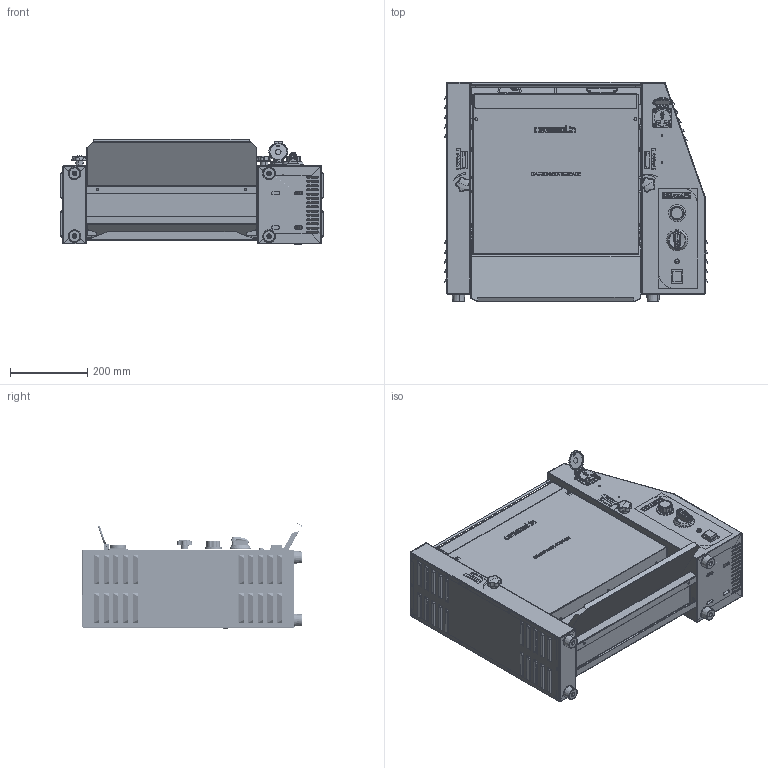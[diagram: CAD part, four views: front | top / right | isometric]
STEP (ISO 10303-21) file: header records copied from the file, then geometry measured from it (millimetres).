
FILE_DESCRIPTION (( 'STEP AP214' ), '1' );
FILE_NAME ('pres-CTVGV.STEP', '2025-01-29T16:07:01', ( '' ), ( '' ), 'SwSTEP 2.0', 'SolidWorks 2025', '' );
FILE_SCHEMA (( 'AUTOMOTIVE_DESIGN' ));
Length unit declared in the file: millimetre
Products named in the file (113): PA10139R ______-2-solid1_5_1_PA10139R ______-2-solid1_5_1; PA10139 ______-1-solid1_2_3_PA10139 ______-1-solid1_2_3; cross recessed cheese head screws gb-10-solid1_1_1_cross recessed cheese head screws gb-10-solid1_1_1; pres-CTVGV; IP55________ -1-solid3_1_1_IP55________ -1-solid3_1_1; M01____ ________-1-solid1_1_1_M01____ ________-1-solid1_1_1; ______________-1-solid1_1_1_______________-1-solid1_1_1; __________U____-2-solid1_1_1___________U____-2-solid1_1_1; PA10139R ________-2-solid1_1_1_PA10139R ________-2-solid1_1_1; IP55________ -1-solid4_1_1_IP55________ -1-solid4_1_1; __________-1-solid1_2_1___________-1-solid1_2_1; hex nuts, style 1-grades ab gb-4-solid1_1_1_hex nuts, style 1-grades ab gb-4-solid1_1_1; hex nuts, style 1-grades ab gb-7-solid1_1_1_hex nuts, style 1-grades ab gb-7-solid1_1_1; Etiquette-ep-gauche-toasteur-vertical-chiffre; single coil lock washers light type gb-7-solid1_1_1_single coil lock washers light type gb-7-solid1_1_1; PA10139 ______________-2-solid1_1_1_PA10139 ______________-2-solid1_1_1; PA10139unique_PA10139 ____-1-solid1_1_1; PA10139 ______-1-solid1_1_3_PA10139 ______-1-solid1_1_3; single coil lock washers light type gb-14-solid1_1_1_single coil lock washers light type gb-14-solid1_1_1; PA10139 ________-6-solid1_1_1_PA10139 ________-6-solid1_1_1; PA10139 ______________-1-solid1_3_1_PA10139 ______________-1-solid1_3_1; IP55______-1-solid1_1_1_IP55______-1-solid1_1_1; cross recessed cheese head screws gb-7-solid1_1_1_cross recessed cheese head screws gb-7-solid1_1_1; plain washers-l series-grades ac gb-3-solid1_1_1_plain washers-l series-grades ac gb-3-solid1_1_1; plain washers-l series-grades ac gb-7-solid1_1_1_plain washers-l series-grades ac gb-7-solid1_1_1; PA10139 ________-3-solid1_1_1_PA10139 ________-3-solid1_1_1; hexagon socket head cap screws gb-1-solid1_1_1_hexagon socket head cap screws gb-1-solid1_1_1; LOGO-CASSELIN-toasteur-verticalGV; plain washers--product grade c gb-4-solid1_1_1_plain washers--product grade c gb-4-solid1_1_1; PA10139R-2_1_1_PA10139R-2_1_1; IP55________ -1-solid1_1_1_IP55________ -1-solid1_1_1; ________-1-solid1_1_1_________-1-solid1_1_1; PA10139 ______________-1-solid1_2_1_PA10139 ______________-1-solid1_2_1; single coil lock washers light type gb-4-solid1_1_1_single coil lock washers light type gb-4-solid1_1_1; PA10139 ________________-4-solid1_1_1_PA10139 ________________-4-solid1_1_1; plain washers-l series-grades ac gb-4-solid1_1_1_plain washers-l series-grades ac gb-4-solid1_1_1; IP55________ -1-solid7_1_1_IP55________ -1-solid7_1_1; IP55________-1-solid1_1_1_IP55________-1-solid1_1_1; Etiquette-ep-toasteur-vertical-fleche; IP55________ -1-solid5_1_1_IP55________ -1-solid5_1_1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
Assembly tree (117 placements, depth 3):
  pres-CTVGV
    PA10139R ______-2-solid1_1_1_PA10139R ______-2-solid1_1_1
    PA10139R ______-2-solid1_2_1_PA10139R ______-2-solid1_2_1
    PA10139R ______-2-solid1_3_1_PA10139R ______-2-solid1_3_1
    PA10139R ______-2-solid1_4_1_PA10139R ______-2-solid1_4_1
    PA10139R ______-2-solid1_5_1_PA10139R ______-2-solid1_5_1
    cross recessed cheese head screws gb-7-solid1_1_1_cross recessed cheese head screws gb-7-solid1_1_1
    IP55________ -1-solid8_1_1_IP55________ -1-solid8_1_1
    plain washers--product grade c gb-5-solid1_1_1_plain washers--product grade c gb-5-solid1_1_1
    single coil lock washers light type gb-7-solid1_1_1_single coil lock washers light type gb-7-solid1_1_1
    single coil lock washers light type gb-9-solid1_1_1_single coil lock washers light type gb-9-solid1_1_1
    plain washers-l series-grades ac gb-6-solid1_1_1_plain washers-l series-grades ac gb-6-solid1_1_1
    PA10139 ________________-1-solid1_1_1_PA10139 ________________-1-solid1_1_1
    M8____ ________-1-solid1_1_3_M8____ ________-1-solid1_1_3
    plain washers-l series-grades ac gb-7-solid1_1_1_plain washers-l series-grades ac gb-7-solid1_1_1
    tole-avant-toasteur-vert-600b
    PA10139 ______________-1-solid1_1_1_PA10139 ______________-1-solid1_1_1
    PA10139 ______-1-solid1_1_3_PA10139 ______-1-solid1_1_3
    plain washers--product grade c gb-2-solid1_1_1_plain washers--product grade c gb-2-solid1_1_1
    hexagon socket head cap screws gb-1-solid1_1_1_hexagon socket head cap screws gb-1-solid1_1_1
    plain washers-l series-grades ac gb-8-solid1_1_1_plain washers-l series-grades ac gb-8-solid1_1_1
    plain washers--product grade c gb-7-solid1_1_1_plain washers--product grade c gb-7-solid1_1_1
    plain washers-l series-grades ac gb-5-solid1_1_1_plain washers-l series-grades ac gb-5-solid1_1_1
    PA10139 ________________-4-solid1_1_1_PA10139 ________________-4-solid1_1_1
    __________U____-1-solid1_1_1___________U____-1-solid1_1_1
    single coil lock washers light type gb-10-solid1_1_1_single coil lock washers light type gb-10-solid1_1_1
    cross recessed cheese head screws gb-10-solid1_1_1_cross recessed cheese head screws gb-10-solid1_1_1
    __________-1-solid1_1_1___________-1-solid1_1_1
    PA10139 ________________-3-solid1_1_1_PA10139 ________________-3-solid1_1_1
    PA10139 ____________-1-solid1_1_2_PA10139 ____________-1-solid1_1_2
    cross recessed cheese head screws gb-9-solid1_1_1_cross recessed cheese head screws gb-9-solid1_1_1
    hexagon socket head cap screws gb-4-solid1_1_1_hexagon socket head cap screws gb-4-solid1_1_1
    IP55________ -1-solid5_1_1_IP55________ -1-solid5_1_1
    IP55________ -1-solid6_1_1_IP55________ -1-solid6_1_1
    PA10139 __________-1-solid1_1_1_PA10139 __________-1-solid1_1_1
    plain washers--product grade c gb-3-solid1_1_1_plain washers--product grade c gb-3-solid1_1_1
    M01____ __-1-solid1_1_1_M01____ __-1-solid1_1_1
    hex nuts, style 1-grades ab gb-8-solid1_1_1_hex nuts, style 1-grades ab gb-8-solid1_1_1
    hex nuts, style 1-grades ab gb-4-solid1_1_1_hex nuts, style 1-grades ab gb-4-solid1_1_1
    single coil lock washers light type gb-8-solid1_1_1_single coil lock washers light type gb-8-solid1_1_1
    PA10139unique_PA10139 ____-1-solid1_1_1
    plain washers-l series-grades ac gb-3-solid1_1_1_plain washers-l series-grades ac gb-3-solid1_1_1
    single coil lock washers light type gb-13-solid1_1_1_single coil lock washers light type gb-13-solid1_1_1
    plain washers-l series-grades ac gb-1-solid1_1_1_plain washers-l series-grades ac gb-1-solid1_1_1
    single coil lock washers light type gb-1-solid1_1_1_single coil lock washers light type gb-1-solid1_1_1
    PA10139 ______________-6-solid1_1_1_PA10139 ______________-6-solid1_1_1
    PA10139 ______________-1-solid1_2_1_PA10139 ______________-1-solid1_2_1
    __________U____-2-solid1_1_1___________U____-2-solid1_1_1
    single coil lock washers light type gb-3-solid1_1_1_single coil lock washers light type gb-3-solid1_1_1
    PA10139 ____________-1-solid1_1_3_PA10139 ____________-1-solid1_1_3
    PA10139 ________-4-solid1_1_1_PA10139 ________-4-solid1_1_1
    ________-1-solid1_1_1_________-1-solid1_1_1
    PA10139 ______-1-solid1_2_3_PA10139 ______-1-solid1_2_3
    PA10139R-2_1_1_PA10139R-2_1_1
    PA10139R-2_2_1_PA10139R-2_2_1
    single coil lock washers light type gb-6-solid1_1_1_single coil lock washers light type gb-6-solid1_1_1
    single coil lock washers light type gb-12-solid1_1_1_single coil lock washers light type gb-12-solid1_1_1
    single coil lock washers light type gb-2-solid1_1_1_single coil lock washers light type gb-2-solid1_1_1
    cross recessed cheese head screws gb-8-solid1_1_1_cross recessed cheese head screws gb-8-solid1_1_1
    plain washers--product grade c gb-6-solid1_1_1_plain washers--product grade c gb-6-solid1_1_1
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Bounding box: 682.36 x 570.13 x 274.29 mm (x, y, z)
Volume: 1381906 mm3; surface area: 3592190.9 mm2
Topology: 157 solids, 168 shells, 6192 faces, 15108 edges, 9415 vertices
Faces by surface type: plane 2897, cylinder 1931, bspline 893, cone 324, torus 135, sphere 12
Entity records: 245109 total; most frequent: CARTESIAN_POINT 94248, ORIENTED_EDGE 29229, DIRECTION 24817, EDGE_CURVE 14628, VERTEX_POINT 9126, AXIS2_PLACEMENT_3D 8755, VECTOR 7307, LINE 7307
